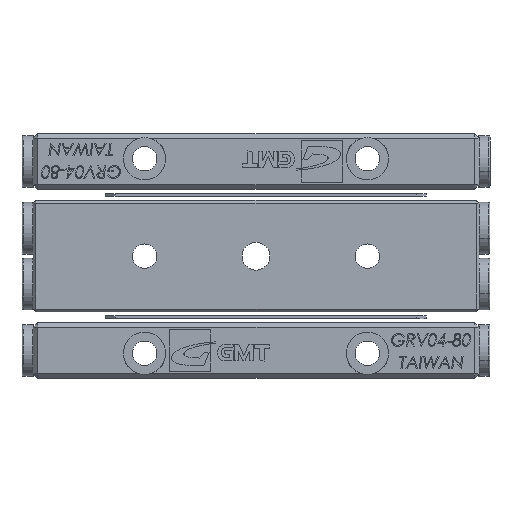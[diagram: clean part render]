
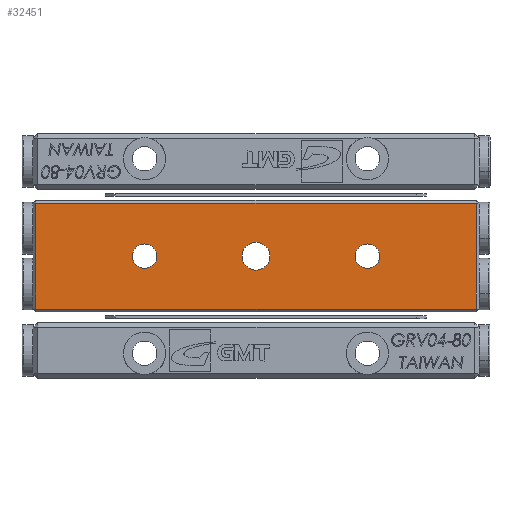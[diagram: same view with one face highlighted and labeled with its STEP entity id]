
A CAD part, front view. The second image highlights one B-rep face of the part: STEP entity #32451.
In plain terms, the highlighted planar face has unit normal (0, -1, 0).
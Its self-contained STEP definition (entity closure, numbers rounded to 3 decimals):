
#4563 = CARTESIAN_POINT ( 'NONE',  ( 9.435, -5.5, 0. ) ) ;
#4564 = DIRECTION ( 'NONE',  ( 0., 1., 0. ) ) ;
#4565 = DIRECTION ( 'NONE',  ( 0., 0., 1. ) ) ;
#4583 = CARTESIAN_POINT ( 'NONE',  ( -10.565, -5.5, 0. ) ) ;
#4584 = DIRECTION ( 'NONE',  ( 0., 1., 0. ) ) ;
#4585 = DIRECTION ( 'NONE',  ( 0., 0., 1. ) ) ;
#6132 = CARTESIAN_POINT ( 'NONE',  ( 9.435, -5.5, 0. ) ) ;
#6133 = DIRECTION ( 'NONE',  ( 0., 1., 0. ) ) ;
#6134 = DIRECTION ( 'NONE',  ( 0., 0., 1. ) ) ;
#6198 = CARTESIAN_POINT ( 'NONE',  ( 28.935, -5.5, 9.5 ) ) ;
#7585 = EDGE_CURVE ( 'NONE', #32917, #32975, #15306, .T. ) ;
#7655 = EDGE_CURVE ( 'NONE', #32994, #32995, #15397, .T. ) ;
#7661 = EDGE_CURVE ( 'NONE', #32989, #32987, #15408, .T. ) ;
#9190 = CARTESIAN_POINT ( 'NONE',  ( -30.565, -5.5, 0. ) ) ;
#9191 = DIRECTION ( 'NONE',  ( 0., 1., 0. ) ) ;
#9192 = DIRECTION ( 'NONE',  ( 0., 0., 1. ) ) ;
#9904 = FACE_BOUND ( 'NONE', #13464, .T. ) ;
#9905 = FACE_OUTER_BOUND ( 'NONE', #13306, .T. ) ;
#9907 = FACE_BOUND ( 'NONE', #13274, .T. ) ;
#9908 = FACE_BOUND ( 'NONE', #13368, .T. ) ;
#12780 = CARTESIAN_POINT ( 'NONE',  ( -50.065, -5.5, -9.5 ) ) ;
#12785 = CARTESIAN_POINT ( 'NONE',  ( 28.935, -5.5, -9.5 ) ) ;
#13274 = EDGE_LOOP ( 'NONE', ( #34836, #31498 ) ) ;
#13306 = EDGE_LOOP ( 'NONE', ( #31574, #31527, #34865, #34749 ) ) ;
#13368 = EDGE_LOOP ( 'NONE', ( #31474, #31489 ) ) ;
#13464 = EDGE_LOOP ( 'NONE', ( #34849, #31440 ) ) ;
#15306 = CIRCLE ( 'NONE', #20720, 2.2 ) ;
#15397 = CIRCLE ( 'NONE', #20731, 2.2 ) ;
#15408 = CIRCLE ( 'NONE', #20735, 2.5 ) ;
#16262 = LINE ( 'NONE', #21248, #16276 ) ;
#16276 = VECTOR ( 'NONE', #21257, 1000. ) ;
#16316 = LINE ( 'NONE', #21280, #16322 ) ;
#16322 = VECTOR ( 'NONE', #21281, 1000. ) ;
#16335 = LINE ( 'NONE', #21289, #16341 ) ;
#16341 = VECTOR ( 'NONE', #21290, 1000. ) ;
#16438 = CIRCLE ( 'NONE', #20848, 2.5 ) ;
#16499 = CIRCLE ( 'NONE', #20853, 2.2 ) ;
#16570 = LINE ( 'NONE', #21510, #16576 ) ;
#16576 = VECTOR ( 'NONE', #21511, 1000. ) ;
#17063 = EDGE_CURVE ( 'NONE', #34010, #20411, #16262, .T. ) ;
#17102 = EDGE_CURVE ( 'NONE', #20411, #32940, #16316, .T. ) ;
#17118 = EDGE_CURVE ( 'NONE', #32940, #34005, #16335, .T. ) ;
#17205 = EDGE_CURVE ( 'NONE', #32987, #32989, #16438, .T. ) ;
#17279 = EDGE_CURVE ( 'NONE', #32975, #32917, #16499, .T. ) ;
#17346 = EDGE_CURVE ( 'NONE', #34005, #34010, #16570, .T. ) ;
#19556 = EDGE_CURVE ( 'NONE', #32995, #32994, #29623, .T. ) ;
#19742 = DIRECTION ( 'NONE',  ( 0., 1., 0. ) ) ;
#19743 = CARTESIAN_POINT ( 'NONE',  ( -50.565, -5.5, 10. ) ) ;
#19798 = PLANE ( 'NONE',  #22949 ) ;
#19799 = DIRECTION ( 'NONE',  ( 0., 0., 1. ) ) ;
#20411 = VERTEX_POINT ( 'NONE', #6198 ) ;
#20720 = AXIS2_PLACEMENT_3D ( 'NONE', #9190, #9191, #9192 ) ;
#20731 = AXIS2_PLACEMENT_3D ( 'NONE', #4563, #4564, #4565 ) ;
#20735 = AXIS2_PLACEMENT_3D ( 'NONE', #4583, #4584, #4585 ) ;
#20848 = AXIS2_PLACEMENT_3D ( 'NONE', #21347, #21348, #21349 ) ;
#20853 = AXIS2_PLACEMENT_3D ( 'NONE', #21421, #21422, #21423 ) ;
#21008 = AXIS2_PLACEMENT_3D ( 'NONE', #6132, #6133, #6134 ) ;
#21248 = CARTESIAN_POINT ( 'NONE',  ( 28.935, -5.5, 10. ) ) ;
#21257 = DIRECTION ( 'NONE',  ( 0., 0., 1. ) ) ;
#21280 = CARTESIAN_POINT ( 'NONE',  ( -50.565, -5.5, 9.5 ) ) ;
#21281 = DIRECTION ( 'NONE',  ( -1., 0., 0. ) ) ;
#21289 = CARTESIAN_POINT ( 'NONE',  ( -50.065, -5.5, 10. ) ) ;
#21290 = DIRECTION ( 'NONE',  ( 0., 0., -1. ) ) ;
#21347 = CARTESIAN_POINT ( 'NONE',  ( -10.565, -5.5, 0. ) ) ;
#21348 = DIRECTION ( 'NONE',  ( 0., 1., 0. ) ) ;
#21349 = DIRECTION ( 'NONE',  ( 0., 0., 1. ) ) ;
#21421 = CARTESIAN_POINT ( 'NONE',  ( -30.565, -5.5, 0. ) ) ;
#21422 = DIRECTION ( 'NONE',  ( 0., 1., 0. ) ) ;
#21423 = DIRECTION ( 'NONE',  ( 0., 0., 1. ) ) ;
#21510 = CARTESIAN_POINT ( 'NONE',  ( -50.565, -5.5, -9.5 ) ) ;
#21511 = DIRECTION ( 'NONE',  ( 1., 0., 0. ) ) ;
#22949 = AXIS2_PLACEMENT_3D ( 'NONE', #19743, #19742, #19799 ) ;
#26719 = CARTESIAN_POINT ( 'NONE',  ( -30.565, -5.5, -2.2 ) ) ;
#26742 = CARTESIAN_POINT ( 'NONE',  ( -50.065, -5.5, 9.5 ) ) ;
#26777 = CARTESIAN_POINT ( 'NONE',  ( -30.565, -5.5, 2.2 ) ) ;
#26789 = CARTESIAN_POINT ( 'NONE',  ( -10.565, -5.5, 2.5 ) ) ;
#26791 = CARTESIAN_POINT ( 'NONE',  ( -10.565, -5.5, -2.5 ) ) ;
#26796 = CARTESIAN_POINT ( 'NONE',  ( 9.435, -5.5, -2.2 ) ) ;
#26797 = CARTESIAN_POINT ( 'NONE',  ( 9.435, -5.5, 2.2 ) ) ;
#29623 = CIRCLE ( 'NONE', #21008, 2.2 ) ;
#31440 = ORIENTED_EDGE ( 'NONE', *, *, #7661, .T. ) ;
#31474 = ORIENTED_EDGE ( 'NONE', *, *, #17279, .T. ) ;
#31489 = ORIENTED_EDGE ( 'NONE', *, *, #7585, .T. ) ;
#31498 = ORIENTED_EDGE ( 'NONE', *, *, #7655, .T. ) ;
#31527 = ORIENTED_EDGE ( 'NONE', *, *, #17346, .T. ) ;
#31574 = ORIENTED_EDGE ( 'NONE', *, *, #17118, .T. ) ;
#32451 = ADVANCED_FACE ( 'NONE', ( #9905, #9907, #9904, #9908 ), #19798, .F. ) ;
#32917 = VERTEX_POINT ( 'NONE', #26719 ) ;
#32940 = VERTEX_POINT ( 'NONE', #26742 ) ;
#32975 = VERTEX_POINT ( 'NONE', #26777 ) ;
#32987 = VERTEX_POINT ( 'NONE', #26789 ) ;
#32989 = VERTEX_POINT ( 'NONE', #26791 ) ;
#32994 = VERTEX_POINT ( 'NONE', #26796 ) ;
#32995 = VERTEX_POINT ( 'NONE', #26797 ) ;
#34005 = VERTEX_POINT ( 'NONE', #12780 ) ;
#34010 = VERTEX_POINT ( 'NONE', #12785 ) ;
#34749 = ORIENTED_EDGE ( 'NONE', *, *, #17102, .T. ) ;
#34836 = ORIENTED_EDGE ( 'NONE', *, *, #19556, .T. ) ;
#34849 = ORIENTED_EDGE ( 'NONE', *, *, #17205, .T. ) ;
#34865 = ORIENTED_EDGE ( 'NONE', *, *, #17063, .T. ) ;
